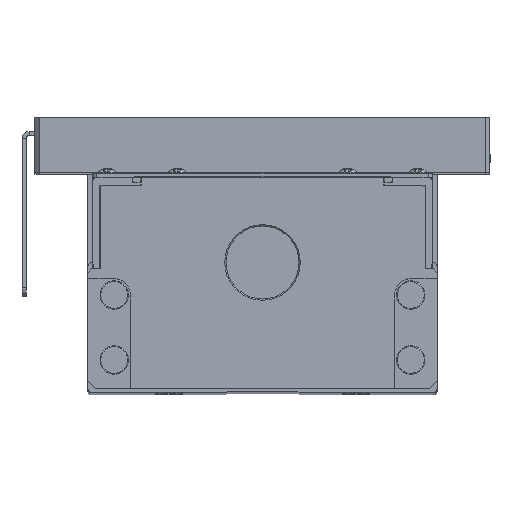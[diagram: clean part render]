
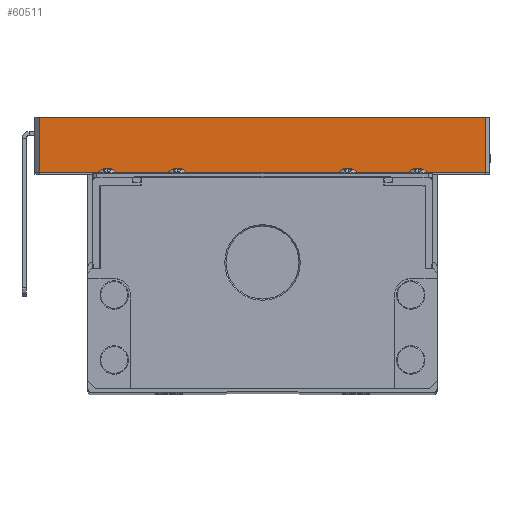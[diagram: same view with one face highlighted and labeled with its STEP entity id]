
A CAD part, top view. The second image highlights one B-rep face of the part: STEP entity #60511.
In plain terms, the highlighted planar face has unit normal (0, 0, 1).
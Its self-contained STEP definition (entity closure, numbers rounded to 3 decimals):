
#5640 = VECTOR ( 'NONE', #70894, 1000. ) ;
#6497 = DIRECTION ( 'NONE',  ( 1., 0., 0. ) ) ;
#11695 = CARTESIAN_POINT ( 'NONE',  ( 0., 68., 66.582 ) ) ;
#12330 = ORIENTED_EDGE ( 'NONE', *, *, #19795, .F. ) ;
#15959 = CARTESIAN_POINT ( 'NONE',  ( -55., 68., 66.582 ) ) ;
#19795 = EDGE_CURVE ( 'NONE', #66522, #34819, #64512, .T. ) ;
#24383 = ORIENTED_EDGE ( 'NONE', *, *, #49728, .T. ) ;
#29946 = LINE ( 'NONE', #59529, #52759 ) ;
#30777 = DIRECTION ( 'NONE',  ( 0., 0., 1. ) ) ;
#31928 = ORIENTED_EDGE ( 'NONE', *, *, #47333, .F. ) ;
#34819 = VERTEX_POINT ( 'NONE', #75019 ) ;
#35404 = CARTESIAN_POINT ( 'NONE',  ( 55., 54.3, 66.582 ) ) ;
#36264 = VECTOR ( 'NONE', #68323, 1000. ) ;
#36323 = DIRECTION ( 'NONE',  ( -1., 0., 0. ) ) ;
#37542 = PLANE ( 'NONE',  #58113 ) ;
#42762 = LINE ( 'NONE', #74679, #36264 ) ;
#45121 = EDGE_CURVE ( 'NONE', #75604, #34819, #58206, .T. ) ;
#46609 = DIRECTION ( 'NONE',  ( 0., 1., 0. ) ) ;
#47333 = EDGE_CURVE ( 'NONE', #75604, #70219, #29946, .T. ) ;
#49538 = FACE_OUTER_BOUND ( 'NONE', #63846, .T. ) ;
#49728 = EDGE_CURVE ( 'NONE', #66522, #70219, #42762, .T. ) ;
#52220 = CARTESIAN_POINT ( 'NONE',  ( 55., 68., 66.582 ) ) ;
#52759 = VECTOR ( 'NONE', #36323, 1000. ) ;
#54020 = ORIENTED_EDGE ( 'NONE', *, *, #45121, .T. ) ;
#57697 = CARTESIAN_POINT ( 'NONE',  ( 56., 68., 66.582 ) ) ;
#58113 = AXIS2_PLACEMENT_3D ( 'NONE', #11695, #30777, #6497 ) ;
#58206 = LINE ( 'NONE', #52220, #70340 ) ;
#59529 = CARTESIAN_POINT ( 'NONE',  ( -56., 54.3, 66.582 ) ) ;
#60511 = ADVANCED_FACE ( 'NONE', ( #49538 ), #37542, .T. ) ;
#63846 = EDGE_LOOP ( 'NONE', ( #31928, #54020, #12330, #24383 ) ) ;
#64512 = LINE ( 'NONE', #57697, #5640 ) ;
#66522 = VERTEX_POINT ( 'NONE', #15959 ) ;
#68323 = DIRECTION ( 'NONE',  ( 0., -1., 0. ) ) ;
#70219 = VERTEX_POINT ( 'NONE', #78627 ) ;
#70340 = VECTOR ( 'NONE', #46609, 1000. ) ;
#70894 = DIRECTION ( 'NONE',  ( 1., 0., 0. ) ) ;
#74679 = CARTESIAN_POINT ( 'NONE',  ( -55., 54.3, 66.582 ) ) ;
#75019 = CARTESIAN_POINT ( 'NONE',  ( 55., 68., 66.582 ) ) ;
#75604 = VERTEX_POINT ( 'NONE', #35404 ) ;
#78627 = CARTESIAN_POINT ( 'NONE',  ( -55., 54.3, 66.582 ) ) ;
